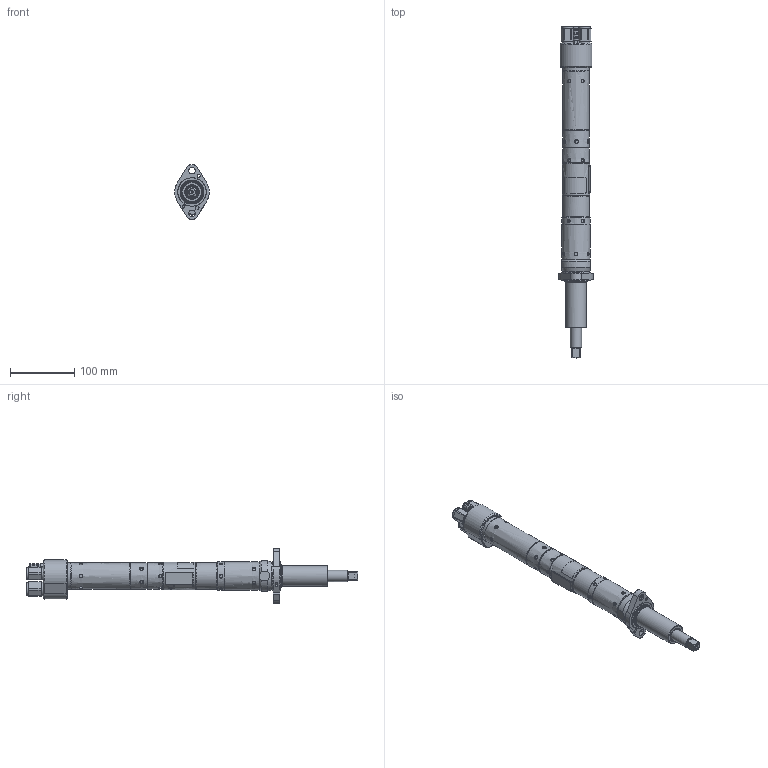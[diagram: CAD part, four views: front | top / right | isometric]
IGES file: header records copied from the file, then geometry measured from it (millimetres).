
Global section: file name: C:\Documents and Settings\sunni\Desktop\45498532\45498532.igs; native system: NX V4.0; preprocessor: UGS NX IGES V4.0; date: 20070808.100324; units: millimetre
Bounding box: 53.95 x 518.26 x 85.7 mm (x, y, z)
Surface area: 99420.2 mm2 (no closed solid volume)
Topology: 0 solids, 0 shells, 478 faces, 4297 edges, 4110 vertices
Faces by surface type: bspline 478
